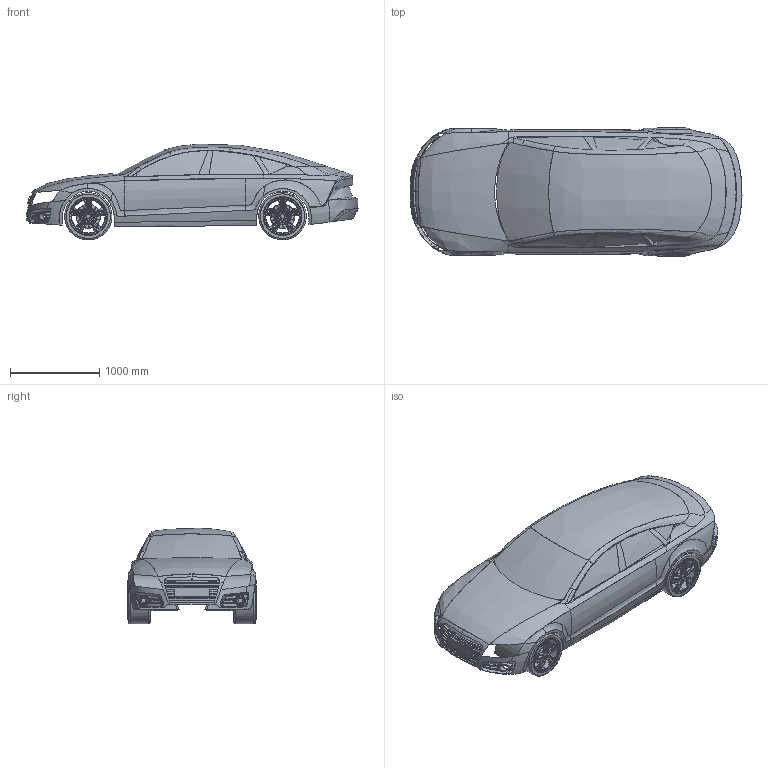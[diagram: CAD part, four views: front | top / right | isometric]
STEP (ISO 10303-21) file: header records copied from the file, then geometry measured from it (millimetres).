
FILE_DESCRIPTION(/* description */ ('Generated from Alias Stage'),/* implementation_level */ '2;1');
FILE_NAME(/* name */ 'Audi A7',/* time_stamp */ '2014-11-21T14:51:31+07:00',/* author */ (''),/* organization */ ('Autodesk Alias'),/* preprocessor_version */ 'ST-DEVELOPER v11',/* originating_system */ 'Autodesk OpenModel 2015',/* authorisation */ '');
FILE_SCHEMA (('AUTOMOTIVE_DESIGN { 1 2 10303 214 1 1 1 1 }'));
Products named in the file (1): Audi A7
Bounding box: 3727.37 x 1445.51 x 1073.1 mm (x, y, z)
Surface area: 21308284 mm2 (no closed solid volume)
Topology: 0 solids, 0 shells, 2539 faces, 14266 edges, 14262 vertices
Faces by surface type: bspline 2539
Entity records: 694500 total; most frequent: CARTESIAN_POINT 644793, DEFINITIONAL_REPRESENTATION 13868, PCURVE 13868, COMPOSITE_CURVE_SEGMENT 13868, STYLED_ITEM 2506, OUTER_BOUNDARY_CURVE 2440, CURVE_BOUNDED_SURFACE 2440, BOUNDARY_CURVE 666
